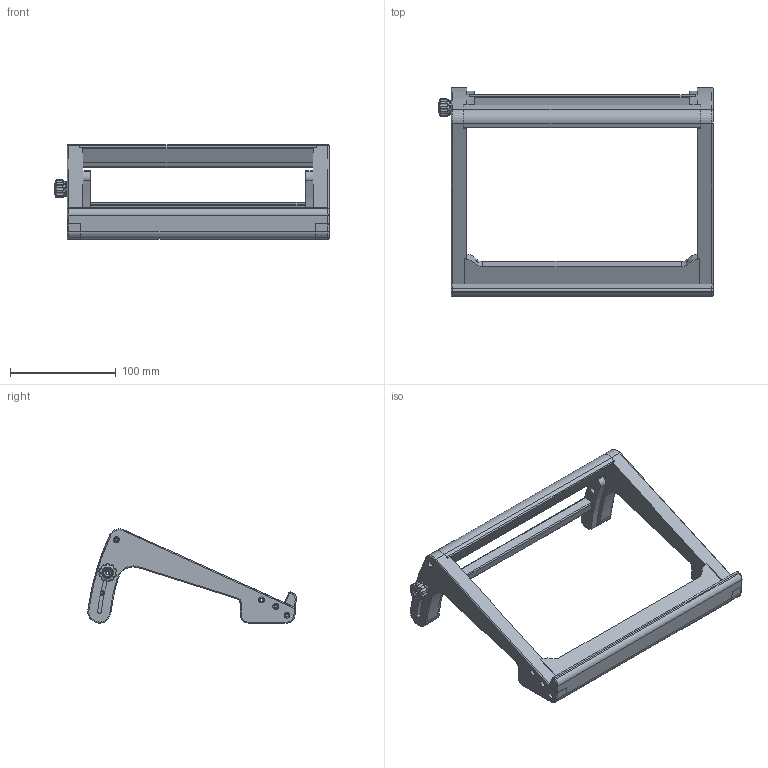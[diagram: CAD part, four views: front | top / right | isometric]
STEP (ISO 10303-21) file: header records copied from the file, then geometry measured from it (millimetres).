
FILE_DESCRIPTION(/* description */ (''),/* implementation_level */ '2;1');
FILE_NAME(/* name */ 'C:/Users/eggysayoga/Desktop/penTabletStand/ipad 10.5/iPad10.5_Stand.step',/* time_stamp */ '2021-01-30T17:06:46+08:00',/* author */ (''),/* organization */ (''),/* preprocessor_version */ 'ST-DEVELOPER v18.1',/* originating_system */ 'Autodesk Translation Framework v9.7.1.1290',/* authorisation */ '');
FILE_SCHEMA (('AUTOMOTIVE_DESIGN { 1 0 10303 214 3 1 1 }'));
Length unit declared in the file: millimetre
Products named in the file (5): ipad10Stand; Stand; tensionerKnob v3; Knob; TopCap
Assembly tree (4 placements, depth 3):
  ipad10Stand
    Stand
    tensionerKnob v3
      Knob
      TopCap
Bounding box: 259.5 x 197.39 x 89.16 mm (x, y, z)
Volume: 398650.7 mm3; surface area: 112683.9 mm2
Topology: 10 solids, 10 shells, 501 faces, 1197 edges, 727 vertices
Faces by surface type: plane 228, cylinder 160, sphere 40, bspline 36, torus 33, cone 4
Full cylindrical faces by diameter (mm): 2.6 x12, 3.2 x5, 3.3 x1, 3.4 x6, 5.6 x8, 5.7 x4, 8.4 x1, 8.5 x1, 14 x1
Entity records: 16803 total; most frequent: CARTESIAN_POINT 4846, DIRECTION 2573, ORIENTED_EDGE 2394, EDGE_CURVE 1197, AXIS2_PLACEMENT_3D 979, VERTEX_POINT 727, LINE 615, VECTOR 615
